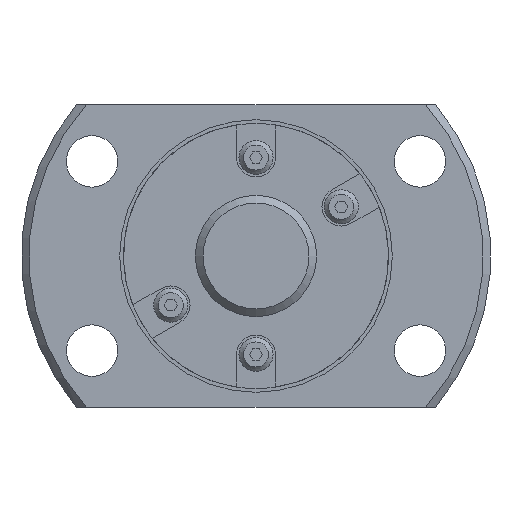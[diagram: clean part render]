
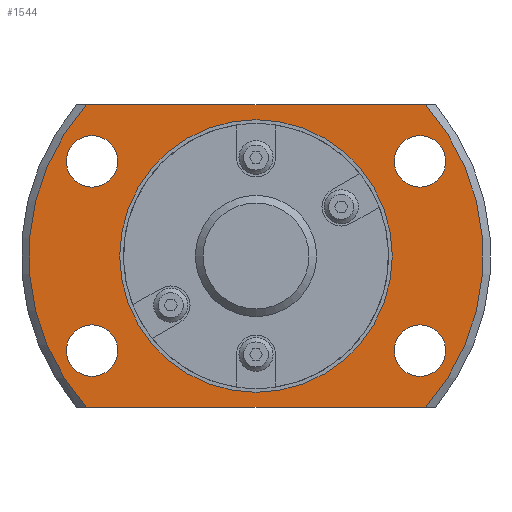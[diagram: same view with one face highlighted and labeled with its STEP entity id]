
A CAD part, left-side view. The second image highlights one B-rep face of the part: STEP entity #1544.
In plain terms, the highlighted planar face has unit normal (-1, 0, 0).
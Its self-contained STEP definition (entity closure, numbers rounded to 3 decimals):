
#97=CIRCLE('',#1685,15.);
#118=CIRCLE('',#1714,8.75);
#119=CIRCLE('',#1716,1.7);
#120=CIRCLE('',#1717,1.7);
#121=CIRCLE('',#1718,1.7);
#122=CIRCLE('',#1719,1.7);
#123=CIRCLE('',#1720,15.);
#283=ORIENTED_EDGE('',*,*,#651,.T.);
#284=ORIENTED_EDGE('',*,*,#652,.T.);
#285=ORIENTED_EDGE('',*,*,#653,.T.);
#286=ORIENTED_EDGE('',*,*,#654,.T.);
#287=ORIENTED_EDGE('',*,*,#608,.F.);
#288=ORIENTED_EDGE('',*,*,#655,.T.);
#289=ORIENTED_EDGE('',*,*,#656,.F.);
#290=ORIENTED_EDGE('',*,*,#657,.T.);
#291=ORIENTED_EDGE('',*,*,#650,.T.);
#608=EDGE_CURVE('',#804,#805,#97,.T.);
#650=EDGE_CURVE('',#841,#841,#118,.T.);
#651=EDGE_CURVE('',#842,#842,#119,.T.);
#652=EDGE_CURVE('',#843,#843,#120,.T.);
#653=EDGE_CURVE('',#844,#844,#121,.T.);
#654=EDGE_CURVE('',#845,#845,#122,.T.);
#655=EDGE_CURVE('',#804,#846,#953,.T.);
#656=EDGE_CURVE('',#847,#846,#123,.T.);
#657=EDGE_CURVE('',#847,#805,#954,.T.);
#804=VERTEX_POINT('',#2421);
#805=VERTEX_POINT('',#2423);
#841=VERTEX_POINT('',#2518);
#842=VERTEX_POINT('',#2521);
#843=VERTEX_POINT('',#2523);
#844=VERTEX_POINT('',#2525);
#845=VERTEX_POINT('',#2527);
#846=VERTEX_POINT('',#2529);
#847=VERTEX_POINT('',#2531);
#953=LINE('',#2528,#1075);
#954=LINE('',#2532,#1076);
#1075=VECTOR('',#2030,1000.);
#1076=VECTOR('',#2033,1000.);
#1198=EDGE_LOOP('',(#283));
#1199=EDGE_LOOP('',(#284));
#1200=EDGE_LOOP('',(#285));
#1201=EDGE_LOOP('',(#286));
#1202=EDGE_LOOP('',(#287,#288,#289,#290));
#1203=EDGE_LOOP('',(#291));
#1350=FACE_BOUND('',#1198,.T.);
#1351=FACE_BOUND('',#1199,.T.);
#1352=FACE_BOUND('',#1200,.T.);
#1353=FACE_BOUND('',#1201,.T.);
#1354=FACE_BOUND('',#1202,.T.);
#1355=FACE_BOUND('',#1203,.T.);
#1466=PLANE('',#1715);
#1544=ADVANCED_FACE('',(#1350,#1351,#1352,#1353,#1354,#1355),#1466,.F.);
#1685=AXIS2_PLACEMENT_3D('',#2422,#1942,#1943);
#1714=AXIS2_PLACEMENT_3D('',#2517,#2018,#2019);
#1715=AXIS2_PLACEMENT_3D('',#2519,#2020,#2021);
#1716=AXIS2_PLACEMENT_3D('',#2520,#2022,#2023);
#1717=AXIS2_PLACEMENT_3D('',#2522,#2024,#2025);
#1718=AXIS2_PLACEMENT_3D('',#2524,#2026,#2027);
#1719=AXIS2_PLACEMENT_3D('',#2526,#2028,#2029);
#1720=AXIS2_PLACEMENT_3D('',#2530,#2031,#2032);
#1942=DIRECTION('',(1.,0.,0.));
#1943=DIRECTION('',(0.,0.,-1.));
#2018=DIRECTION('',(1.,0.,0.));
#2019=DIRECTION('',(0.,0.,-1.));
#2020=DIRECTION('',(1.,0.,0.));
#2021=DIRECTION('',(0.,0.,-1.));
#2022=DIRECTION('',(1.,0.,0.));
#2023=DIRECTION('',(0.,0.,-1.));
#2024=DIRECTION('',(1.,0.,0.));
#2025=DIRECTION('',(0.,0.,-1.));
#2026=DIRECTION('',(1.,0.,0.));
#2027=DIRECTION('',(0.,0.,-1.));
#2028=DIRECTION('',(1.,0.,0.));
#2029=DIRECTION('',(0.,0.,-1.));
#2030=DIRECTION('',(0.,-1.,0.));
#2031=DIRECTION('',(1.,0.,0.));
#2032=DIRECTION('',(0.,0.,-1.));
#2033=DIRECTION('',(0.,1.,0.));
#2421=CARTESIAN_POINT('',(17.,11.18,-10.));
#2422=CARTESIAN_POINT('',(17.,0.,0.));
#2423=CARTESIAN_POINT('',(17.,11.18,10.));
#2517=CARTESIAN_POINT('',(17.,0.,0.));
#2518=CARTESIAN_POINT('',(17.,0.,-8.75));
#2519=CARTESIAN_POINT('',(17.,8.75,0.));
#2520=CARTESIAN_POINT('',(17.,-10.825,-6.25));
#2521=CARTESIAN_POINT('',(17.,-10.825,-7.95));
#2522=CARTESIAN_POINT('',(17.,-10.825,6.25));
#2523=CARTESIAN_POINT('',(17.,-10.825,4.55));
#2524=CARTESIAN_POINT('',(17.,10.825,-6.25));
#2525=CARTESIAN_POINT('',(17.,10.825,-7.95));
#2526=CARTESIAN_POINT('',(17.,10.825,6.25));
#2527=CARTESIAN_POINT('',(17.,10.825,4.55));
#2528=CARTESIAN_POINT('',(17.,8.75,-10.));
#2529=CARTESIAN_POINT('',(17.,-11.18,-10.));
#2530=CARTESIAN_POINT('',(17.,0.,0.));
#2531=CARTESIAN_POINT('',(17.,-11.18,10.));
#2532=CARTESIAN_POINT('',(17.,8.75,10.));
